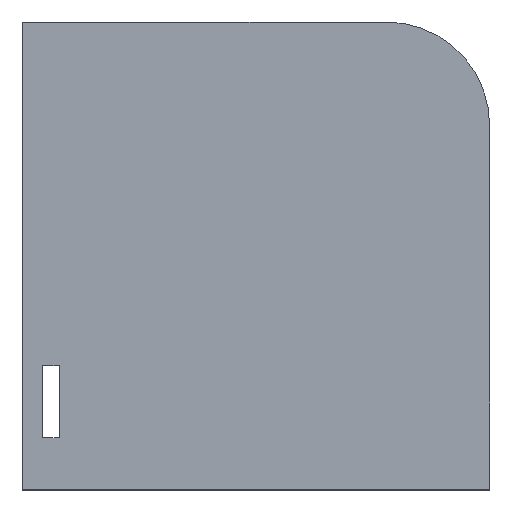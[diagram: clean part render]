
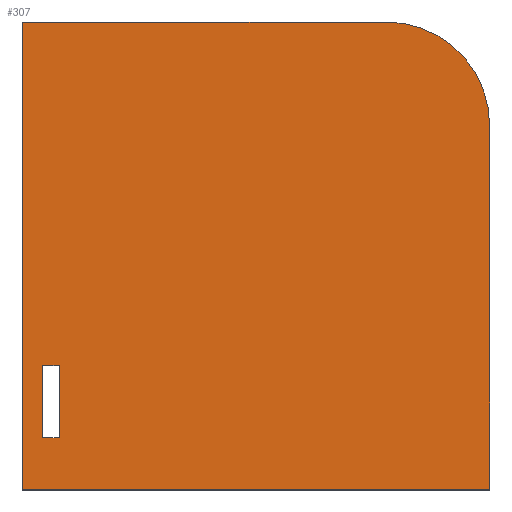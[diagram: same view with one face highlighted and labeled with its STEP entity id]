
A CAD part, top view. The second image highlights one B-rep face of the part: STEP entity #307.
In plain terms, the highlighted planar face has unit normal (0, 0, 1).
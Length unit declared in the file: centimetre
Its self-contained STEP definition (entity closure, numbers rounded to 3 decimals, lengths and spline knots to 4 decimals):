
#30 = ORIENTED_EDGE ( 'NONE', *, *, #617, .T. ) ;
#45 = ORIENTED_EDGE ( 'NONE', *, *, #140, .T. ) ;
#46 = VECTOR ( 'NONE', #602, 100. ) ;
#65 = VERTEX_POINT ( 'NONE', #793 ) ;
#99 = DIRECTION ( 'NONE',  ( 1., 0., 0. ) ) ;
#132 = ORIENTED_EDGE ( 'NONE', *, *, #622, .F. ) ;
#140 = EDGE_CURVE ( 'NONE', #594, #1143, #298, .T. ) ;
#175 = EDGE_LOOP ( 'NONE', ( #132, #898, #1037, #944 ) ) ;
#222 = EDGE_CURVE ( 'NONE', #1168, #65, #722, .T. ) ;
#240 = LINE ( 'NONE', #973, #424 ) ;
#242 = VECTOR ( 'NONE', #394, 100. ) ;
#246 = VECTOR ( 'NONE', #979, 100. ) ;
#285 = LINE ( 'NONE', #1129, #242 ) ;
#298 = CIRCLE ( 'NONE', #1069, 220.9745 ) ;
#307 = ADVANCED_FACE ( 'NONE', ( #536, #1252 ), #1267, .T. ) ;
#314 = DIRECTION ( 'NONE',  ( 0., 0., 1. ) ) ;
#326 = VECTOR ( 'NONE', #1249, 100. ) ;
#366 = CARTESIAN_POINT ( 'NONE',  ( 0., 0., 1000. ) ) ;
#374 = CARTESIAN_POINT ( 'NONE',  ( 779.0255, 1000., 1000. ) ) ;
#384 = CARTESIAN_POINT ( 'NONE',  ( 0., 1000., 1000. ) ) ;
#394 = DIRECTION ( 'NONE',  ( 1., 0., 0. ) ) ;
#424 = VECTOR ( 'NONE', #667, 100. ) ;
#427 = VECTOR ( 'NONE', #1078, 100. ) ;
#448 = VERTEX_POINT ( 'NONE', #1166 ) ;
#459 = EDGE_CURVE ( 'NONE', #996, #1168, #983, .T. ) ;
#464 = CARTESIAN_POINT ( 'NONE',  ( 78.9755, 109.9201, 1000. ) ) ;
#508 = VERTEX_POINT ( 'NONE', #1089 ) ;
#536 = FACE_BOUND ( 'NONE', #175, .T. ) ;
#557 = LINE ( 'NONE', #882, #605 ) ;
#582 = ORIENTED_EDGE ( 'NONE', *, *, #1218, .T. ) ;
#594 = VERTEX_POINT ( 'NONE', #795 ) ;
#602 = DIRECTION ( 'NONE',  ( 0., -1., 0. ) ) ;
#605 = VECTOR ( 'NONE', #1188, 100. ) ;
#617 = EDGE_CURVE ( 'NONE', #1143, #692, #789, .T. ) ;
#619 = EDGE_CURVE ( 'NONE', #448, #594, #557, .T. ) ;
#622 = EDGE_CURVE ( 'NONE', #65, #1004, #240, .T. ) ;
#648 = EDGE_LOOP ( 'NONE', ( #1086, #45, #30, #719, #582 ) ) ;
#667 = DIRECTION ( 'NONE',  ( 0., -1., 0. ) ) ;
#692 = VERTEX_POINT ( 'NONE', #1111 ) ;
#707 = DIRECTION ( 'NONE',  ( 1., 0., 0. ) ) ;
#719 = ORIENTED_EDGE ( 'NONE', *, *, #748, .T. ) ;
#722 = LINE ( 'NONE', #1047, #326 ) ;
#724 = LINE ( 'NONE', #384, #46 ) ;
#747 = CARTESIAN_POINT ( 'NONE',  ( 78.9755, 109.9201, 1000. ) ) ;
#748 = EDGE_CURVE ( 'NONE', #692, #508, #724, .T. ) ;
#789 = LINE ( 'NONE', #1175, #427 ) ;
#793 = CARTESIAN_POINT ( 'NONE',  ( 42.8349, 265.7768, 1000. ) ) ;
#795 = CARTESIAN_POINT ( 'NONE',  ( 1000., 779.0255, 1000. ) ) ;
#797 = AXIS2_PLACEMENT_3D ( 'NONE', #962, #314, #99 ) ;
#803 = CARTESIAN_POINT ( 'NONE',  ( 78.9755, 265.7768, 1000. ) ) ;
#851 = EDGE_CURVE ( 'NONE', #1004, #996, #285, .T. ) ;
#882 = CARTESIAN_POINT ( 'NONE',  ( 1000., 1000., 1000. ) ) ;
#898 = ORIENTED_EDGE ( 'NONE', *, *, #222, .F. ) ;
#944 = ORIENTED_EDGE ( 'NONE', *, *, #851, .F. ) ;
#962 = CARTESIAN_POINT ( 'NONE',  ( 0., 0., 1000. ) ) ;
#973 = CARTESIAN_POINT ( 'NONE',  ( 42.8349, 109.9201, 1000. ) ) ;
#977 = VECTOR ( 'NONE', #707, 100. ) ;
#979 = DIRECTION ( 'NONE',  ( 0., 1., 0. ) ) ;
#983 = LINE ( 'NONE', #464, #246 ) ;
#996 = VERTEX_POINT ( 'NONE', #747 ) ;
#1004 = VERTEX_POINT ( 'NONE', #1064 ) ;
#1037 = ORIENTED_EDGE ( 'NONE', *, *, #459, .F. ) ;
#1047 = CARTESIAN_POINT ( 'NONE',  ( 42.8349, 265.7768, 1000. ) ) ;
#1064 = CARTESIAN_POINT ( 'NONE',  ( 42.8349, 109.9201, 1000. ) ) ;
#1069 = AXIS2_PLACEMENT_3D ( 'NONE', #1236, #1226, #1210 ) ;
#1078 = DIRECTION ( 'NONE',  ( -1., 0., 0. ) ) ;
#1086 = ORIENTED_EDGE ( 'NONE', *, *, #619, .T. ) ;
#1089 = CARTESIAN_POINT ( 'NONE',  ( 0., 0., 1000. ) ) ;
#1111 = CARTESIAN_POINT ( 'NONE',  ( 0., 1000., 1000. ) ) ;
#1129 = CARTESIAN_POINT ( 'NONE',  ( 42.8349, 109.9201, 1000. ) ) ;
#1143 = VERTEX_POINT ( 'NONE', #374 ) ;
#1166 = CARTESIAN_POINT ( 'NONE',  ( 1000., 0., 1000. ) ) ;
#1168 = VERTEX_POINT ( 'NONE', #803 ) ;
#1175 = CARTESIAN_POINT ( 'NONE',  ( 0., 1000., 1000. ) ) ;
#1188 = DIRECTION ( 'NONE',  ( 0., 1., 0. ) ) ;
#1210 = DIRECTION ( 'NONE',  ( 1., 0., 0. ) ) ;
#1218 = EDGE_CURVE ( 'NONE', #508, #448, #1295, .T. ) ;
#1226 = DIRECTION ( 'NONE',  ( 0., 0., 1. ) ) ;
#1236 = CARTESIAN_POINT ( 'NONE',  ( 779.0255, 779.0255, 1000. ) ) ;
#1249 = DIRECTION ( 'NONE',  ( -1., 0., 0. ) ) ;
#1252 = FACE_OUTER_BOUND ( 'NONE', #648, .T. ) ;
#1267 = PLANE ( 'NONE',  #797 ) ;
#1295 = LINE ( 'NONE', #366, #977 ) ;
